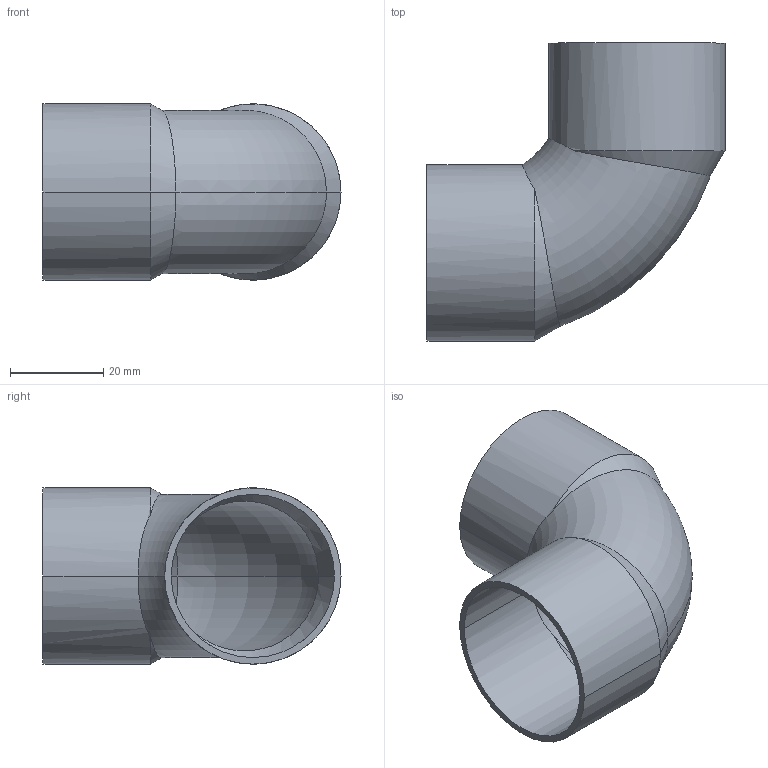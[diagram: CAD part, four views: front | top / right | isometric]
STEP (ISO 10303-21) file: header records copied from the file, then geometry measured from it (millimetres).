
FILE_DESCRIPTION((''),'2;1');
FILE_NAME('G:\SANHA-TERNAT\Technik\Deckel\UUU\Producttek\1509035\1509035(0).stp','2007-07-24T10:12:50',('vdvijverd'),(''),'Autodesk Inventor 8','Autodesk Inventor 8','');
FILE_SCHEMA(('AUTOMOTIVE_DESIGN { 1 0 10303 214 1 1 1 1 }'));
Length unit declared in the file: millimetre
Products named in the file (1): 1509052(1)
Bounding box: 63.9 x 63.9 x 37.8 mm (x, y, z)
Volume: 12086.4 mm3; surface area: 17529 mm2
Topology: 1 solids, 1 shells, 22 faces, 53 edges, 33 vertices
Faces by surface type: bspline 9, torus 4, cone 4, cylinder 4, plane 1
Entity records: 921 total; most frequent: CARTESIAN_POINT 436, ORIENTED_EDGE 106, DIRECTION 82, EDGE_CURVE 53, AXIS2_PLACEMENT_3D 35, VERTEX_POINT 33, EDGE_LOOP 24, FACE_OUTER_BOUND 22
